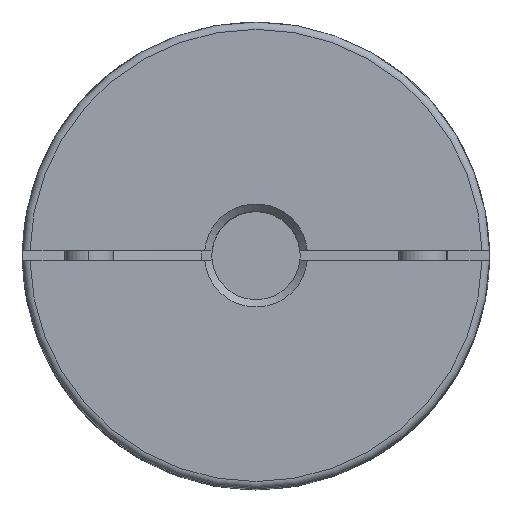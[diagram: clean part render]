
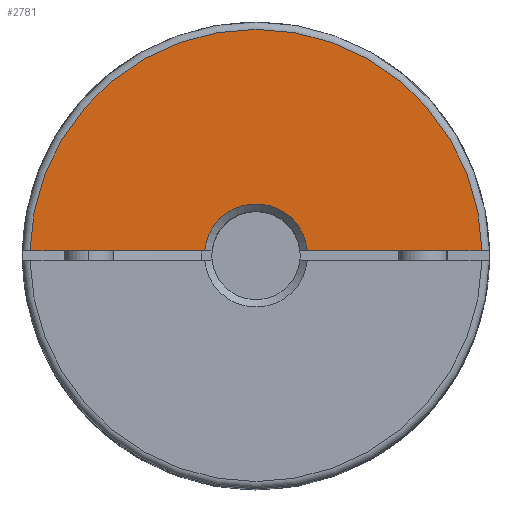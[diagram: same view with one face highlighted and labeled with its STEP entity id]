
A CAD part, top view. The second image highlights one B-rep face of the part: STEP entity #2781.
In plain terms, the highlighted planar face has unit normal (0, 0, 1).
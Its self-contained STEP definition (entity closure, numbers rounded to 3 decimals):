
#526 = DIRECTION ( 'NONE',  ( 0., 0., 1. ) ) ;
#677 = AXIS2_PLACEMENT_3D ( 'NONE', #14147, #5255, #11254 ) ;
#1300 = ORIENTED_EDGE ( 'NONE', *, *, #11131, .T. ) ;
#2114 = CARTESIAN_POINT ( 'NONE',  ( 0., 1., 63. ) ) ;
#2687 = CARTESIAN_POINT ( 'NONE',  ( 10.452, 1., 63. ) ) ;
#2781 = ADVANCED_FACE ( 'NONE', ( #8106 ), #6623, .F. ) ;
#3069 = VERTEX_POINT ( 'NONE', #3352 ) ;
#3352 = CARTESIAN_POINT ( 'NONE',  ( -45.989, 1., 63. ) ) ;
#3417 = EDGE_CURVE ( 'NONE', #3746, #6538, #10273, .T. ) ;
#3746 = VERTEX_POINT ( 'NONE', #2687 ) ;
#3944 = CARTESIAN_POINT ( 'NONE',  ( 45.989, 1., 63. ) ) ;
#4192 = EDGE_CURVE ( 'NONE', #8556, #3746, #17831, .T. ) ;
#5105 = DIRECTION ( 'NONE',  ( 1., 0., 0. ) ) ;
#5255 = DIRECTION ( 'NONE',  ( 0., 0., -1. ) ) ;
#5891 = ORIENTED_EDGE ( 'NONE', *, *, #4192, .T. ) ;
#6326 = VECTOR ( 'NONE', #13629, 1000. ) ;
#6538 = VERTEX_POINT ( 'NONE', #3944 ) ;
#6623 = PLANE ( 'NONE',  #677 ) ;
#7583 = CIRCLE ( 'NONE', #18986, 46. ) ;
#7861 = ORIENTED_EDGE ( 'NONE', *, *, #8813, .T. ) ;
#8106 = FACE_OUTER_BOUND ( 'NONE', #17353, .T. ) ;
#8556 = VERTEX_POINT ( 'NONE', #14869 ) ;
#8813 = EDGE_CURVE ( 'NONE', #3069, #8556, #10210, .T. ) ;
#9455 = CARTESIAN_POINT ( 'NONE',  ( 0., 0., 63. ) ) ;
#10210 = LINE ( 'NONE', #2114, #15627 ) ;
#10273 = LINE ( 'NONE', #10522, #6326 ) ;
#10520 = ORIENTED_EDGE ( 'NONE', *, *, #3417, .T. ) ;
#10522 = CARTESIAN_POINT ( 'NONE',  ( 0., 1., 63. ) ) ;
#11131 = EDGE_CURVE ( 'NONE', #6538, #3069, #7583, .T. ) ;
#11254 = DIRECTION ( 'NONE',  ( -1., 0., 0. ) ) ;
#13629 = DIRECTION ( 'NONE',  ( 1., 0., 0. ) ) ;
#14097 = AXIS2_PLACEMENT_3D ( 'NONE', #18993, #18925, #16058 ) ;
#14147 = CARTESIAN_POINT ( 'NONE',  ( 0., 0., 63. ) ) ;
#14869 = CARTESIAN_POINT ( 'NONE',  ( -10.452, 1., 63. ) ) ;
#15485 = DIRECTION ( 'NONE',  ( -1., 0., 0. ) ) ;
#15627 = VECTOR ( 'NONE', #5105, 1000. ) ;
#16058 = DIRECTION ( 'NONE',  ( 0., 1., 0. ) ) ;
#17353 = EDGE_LOOP ( 'NONE', ( #7861, #5891, #10520, #1300 ) ) ;
#17831 = CIRCLE ( 'NONE', #14097, 10.5 ) ;
#18925 = DIRECTION ( 'NONE',  ( 0., 0., -1. ) ) ;
#18986 = AXIS2_PLACEMENT_3D ( 'NONE', #9455, #526, #15485 ) ;
#18993 = CARTESIAN_POINT ( 'NONE',  ( 0., 0., 63. ) ) ;
